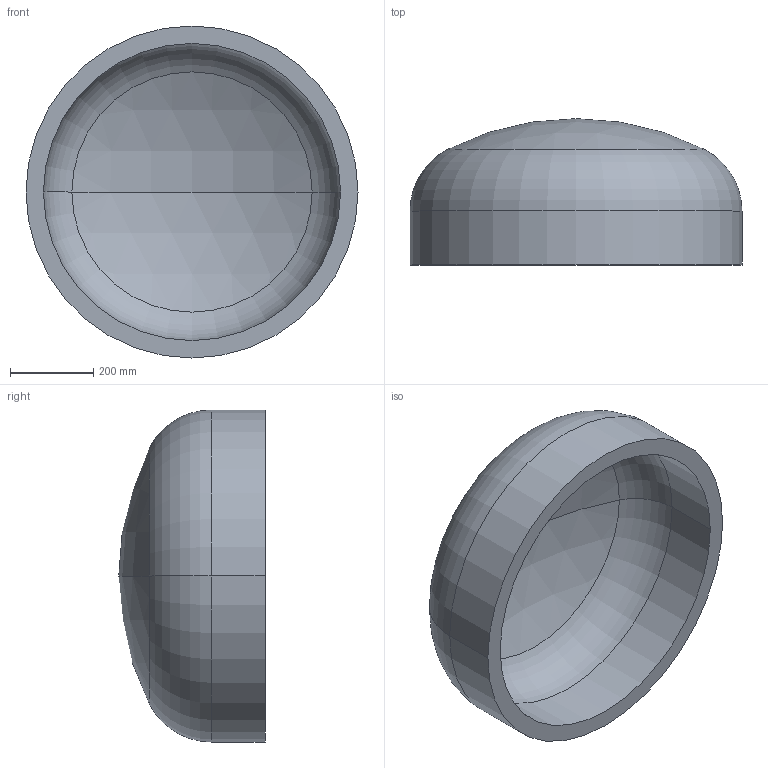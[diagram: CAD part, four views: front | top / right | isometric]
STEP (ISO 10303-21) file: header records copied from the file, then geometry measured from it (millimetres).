
FILE_DESCRIPTION (( 'STEP AP203' ), '1' );
FILE_NAME ('DIN 28013 Korbbogenform_-_Boden DIN 28013 - 800 x 130 - I - s=42.step', '2016-07-01T08:17:05', ( '' ), ( '' ), 'SwSTEP 2.0', 'SolidWorks 2013', '' );
FILE_SCHEMA (( 'CONFIG_CONTROL_DESIGN' ));
Length unit declared in the file: millimetre
Products named in the file (1): DIN 28013 Korbbogenform_-_Boden DIN 28013 - 800 x 130 - I - s=42
Bounding box: 800 x 352.72 x 800 mm (x, y, z)
Volume: 40419361.9 mm3; surface area: 2028441.4 mm2
Topology: 1 solids, 1 shells, 13 faces, 24 edges, 14 vertices
Faces by surface type: torus 4, cylinder 4, sphere 4, plane 1
Entity records: 407 total; most frequent: DIRECTION 72, CARTESIAN_POINT 52, ORIENTED_EDGE 48, AXIS2_PLACEMENT_3D 34, EDGE_CURVE 24, CIRCLE 20, EDGE_LOOP 14, VERTEX_POINT 14
